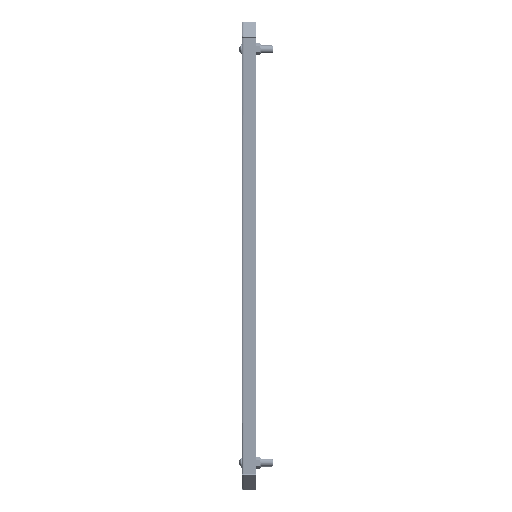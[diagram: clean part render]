
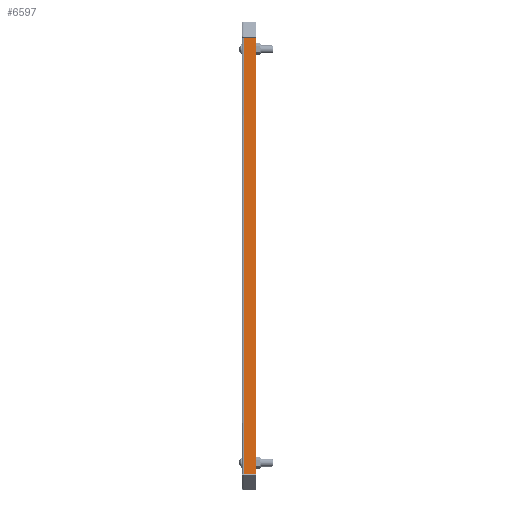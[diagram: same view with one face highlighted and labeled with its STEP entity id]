
A CAD part, left-side view. The second image highlights one B-rep face of the part: STEP entity #6597.
In plain terms, the highlighted planar face has unit normal (-1, 0, 0).
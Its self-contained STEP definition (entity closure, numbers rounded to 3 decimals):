
#5910 = FACE_OUTER_BOUND ( 'NONE', #63028, .T. ) ;
#5915 = AXIS2_PLACEMENT_3D ( 'NONE', #161147, #161148, #161149 ) ;
#6597 = ADVANCED_FACE ( 'NONE', ( #5910 ), #161146, .F. ) ;
#63028 = EDGE_LOOP ( 'NONE', ( #65217, #65220, #65213, #65228 ) ) ;
#65213 = ORIENTED_EDGE ( 'NONE', *, *, #166255, .F. ) ;
#65217 = ORIENTED_EDGE ( 'NONE', *, *, #166244, .F. ) ;
#65220 = ORIENTED_EDGE ( 'NONE', *, *, #166266, .T. ) ;
#65228 = ORIENTED_EDGE ( 'NONE', *, *, #166263, .F. ) ;
#94248 = CARTESIAN_POINT ( 'NONE',  ( -400., -2.4, -279.395 ) ) ;
#94252 = CARTESIAN_POINT ( 'NONE',  ( -400., -2.4, 279.395 ) ) ;
#94258 = CARTESIAN_POINT ( 'NONE',  ( -400., -18., -279.395 ) ) ;
#94262 = CARTESIAN_POINT ( 'NONE',  ( -400., -18., 279.395 ) ) ;
#118931 = VERTEX_POINT ( 'NONE', #94248 ) ;
#118935 = VERTEX_POINT ( 'NONE', #94252 ) ;
#118941 = VERTEX_POINT ( 'NONE', #94258 ) ;
#118945 = VERTEX_POINT ( 'NONE', #94262 ) ;
#139735 = VECTOR ( 'NONE', #148477, 1000. ) ;
#139793 = VECTOR ( 'NONE', #148510, 1000. ) ;
#139835 = VECTOR ( 'NONE', #148534, 1000. ) ;
#139852 = VECTOR ( 'NONE', #148543, 1000. ) ;
#148475 = LINE ( 'NONE', #148476, #139735 ) ;
#148476 = CARTESIAN_POINT ( 'NONE',  ( -400., -2.4, 280. ) ) ;
#148477 = DIRECTION ( 'NONE',  ( 0., 0., 1. ) ) ;
#148508 = LINE ( 'NONE', #148509, #139793 ) ;
#148509 = CARTESIAN_POINT ( 'NONE',  ( -400., -18., 280. ) ) ;
#148510 = DIRECTION ( 'NONE',  ( 0., 0., -1. ) ) ;
#148532 = LINE ( 'NONE', #148533, #139835 ) ;
#148533 = CARTESIAN_POINT ( 'NONE',  ( -400., -1.2, 279.395 ) ) ;
#148534 = DIRECTION ( 'NONE',  ( 0., -1., 0. ) ) ;
#148541 = LINE ( 'NONE', #148542, #139852 ) ;
#148542 = CARTESIAN_POINT ( 'NONE',  ( -400., -18., -279.395 ) ) ;
#148543 = DIRECTION ( 'NONE',  ( 0., -1., 0. ) ) ;
#161146 = PLANE ( 'NONE',  #5915 ) ;
#161147 = CARTESIAN_POINT ( 'NONE',  ( -400., -18., 280. ) ) ;
#161148 = DIRECTION ( 'NONE',  ( 1., 0., 0. ) ) ;
#161149 = DIRECTION ( 'NONE',  ( 0., 1., 0. ) ) ;
#166244 = EDGE_CURVE ( 'NONE', #118931, #118935, #148475, .T. ) ;
#166255 = EDGE_CURVE ( 'NONE', #118945, #118941, #148508, .T. ) ;
#166263 = EDGE_CURVE ( 'NONE', #118935, #118945, #148532, .T. ) ;
#166266 = EDGE_CURVE ( 'NONE', #118931, #118941, #148541, .T. ) ;
